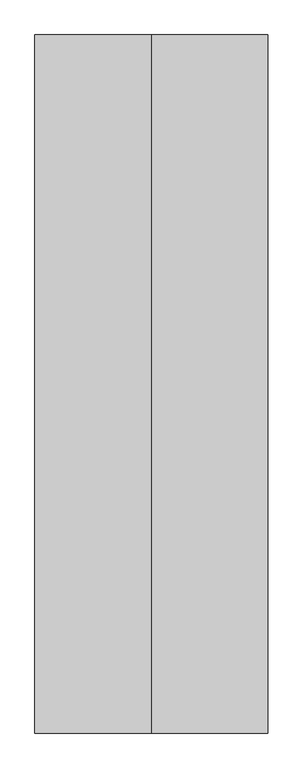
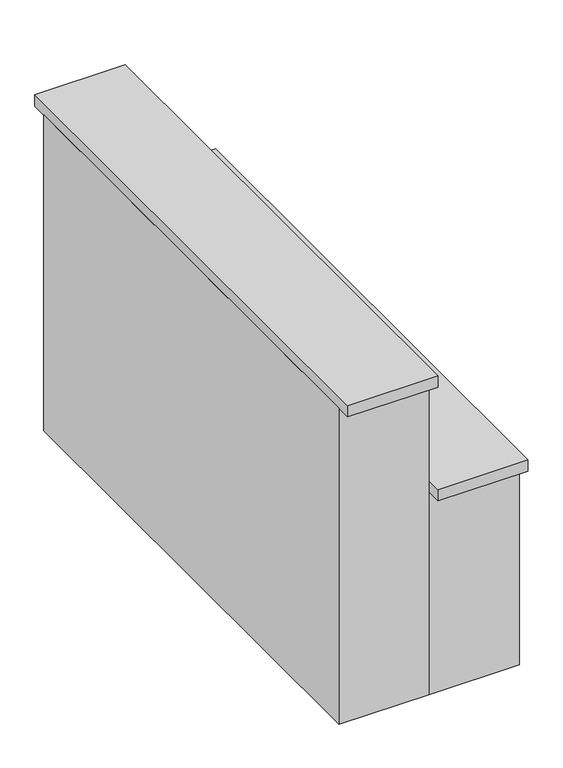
"""IFC4 building model written with IfcOpenShell, lengths in millimetres: furniture geometry, 櫃台 : 櫃台."""

from ifc_helpers import new_model, si_unit, frame, origin, origin_with_axes, place, context, project, spatial, polyline, outline, extrude, source, transform, mapped, element, save


def furniture_28d2bb1b(model_context):
    return source(origin(), model_context, "Body", "SweptSolid", [
        extrude(outline(polyline([(0.0, 850.0), (0.0, -850.0), (-300.0, -850.0), (-300.0, 850.0), (0.0, 850.0)])), origin_with_axes(), (0.0, 0.0, 1.0), 1110.0),
        extrude(outline(polyline([(300.0, 850.0), (300.0, -850.0), (0.0, -850.0), (0.0, 850.0), (300.0, 850.0)])), origin_with_axes(), (0.0, 0.0, 1.0), 710.0),
        extrude(outline(polyline([(300.0, 900.0), (300.0, -900.0), (0.0, -900.0), (0.0, 900.0), (300.0, 900.0)])), frame((0.0, 0.0, 710.0), z_axis=(0.0, 0.0, 1.0), x_axis=(1.0, 0.0, 0.0)), (0.0, 0.0, 1.0), 40.0),
        extrude(outline(polyline([(0.0, 900.0), (0.0, -900.0), (-300.0, -900.0), (-300.0, 900.0), (0.0, 900.0)])), frame((0.0, 0.0, 1110.0), z_axis=(0.0, 0.0, 1.0), x_axis=(1.0, 0.0, 0.0)), (0.0, 0.0, 1.0), 40.0),
    ])


if __name__ == "__main__":
    model = new_model("IFC4")
    model_context = context("Model", 3, world=origin())
    ifc_project = project(units=[si_unit("LENGTHUNIT", "METRE", prefix="MILLI")], contexts=[model_context])
    site = spatial("IfcSite", under=ifc_project)
    building = spatial("IfcBuilding", under=site)
    placement = place(None, origin())
    furniture_shape = furniture_28d2bb1b(model_context)
    element("IfcFurniture", 1, ObjectType="櫃台 : 櫃台", at=placement, inside=building, context=model_context, shape_type="MappedRepresentation", body=[
        mapped(furniture_shape, transform((0.0, 0.0, 0.0), x_axis=(1.0, 0.0, 0.0), y_axis=(0.0, 1.0, 0.0), z_axis=(0.0, 0.0, 1.0))),
    ])
    save(model, "model.ifc")
